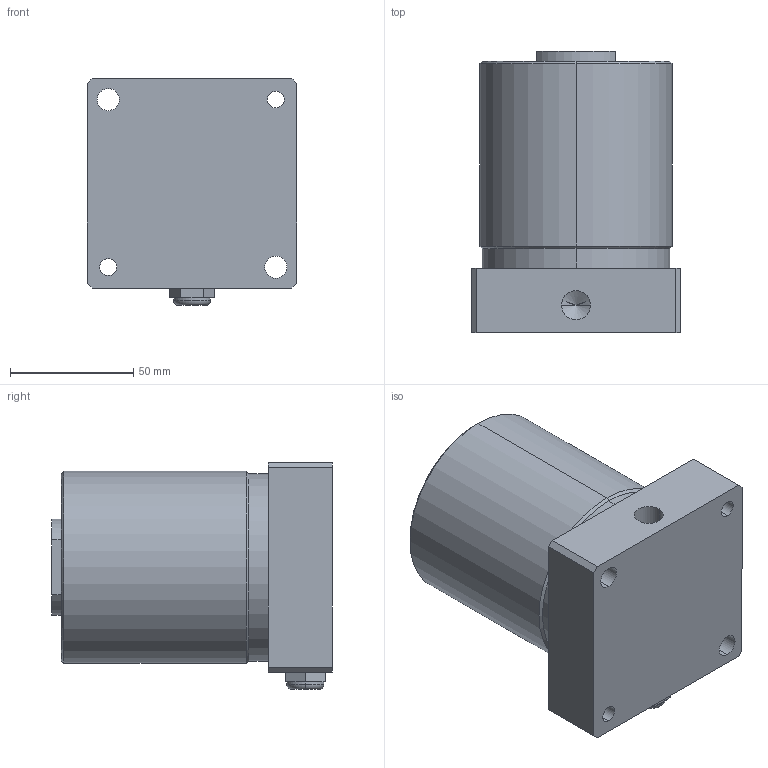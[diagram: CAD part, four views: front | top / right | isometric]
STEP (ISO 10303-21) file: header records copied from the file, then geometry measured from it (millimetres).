
FILE_DESCRIPTION (( 'STEP AP214' ), '1' );
FILE_NAME ('SP-40B.STEP', '2021-10-19T00:38:26', ( '' ), ( '' ), 'SwSTEP 2.0', 'SolidWorks 2016', '' );
FILE_SCHEMA (( 'AUTOMOTIVE_DESIGN' ));
Length unit declared in the file: millimetre
Products named in the file (1): SP-40B
Bounding box: 85 x 114 x 92 mm (x, y, z)
Volume: 584438.7 mm3; surface area: 47870.4 mm2
Topology: 1 solids, 1 shells, 53 faces, 129 edges, 80 vertices
Faces by surface type: plane 22, cylinder 21, cone 8, torus 2
Entity records: 1687 total; most frequent: DIRECTION 281, CARTESIAN_POINT 259, ORIENTED_EDGE 250, EDGE_CURVE 125, AXIS2_PLACEMENT_3D 102, VERTEX_POINT 80, LINE 77, VECTOR 77
